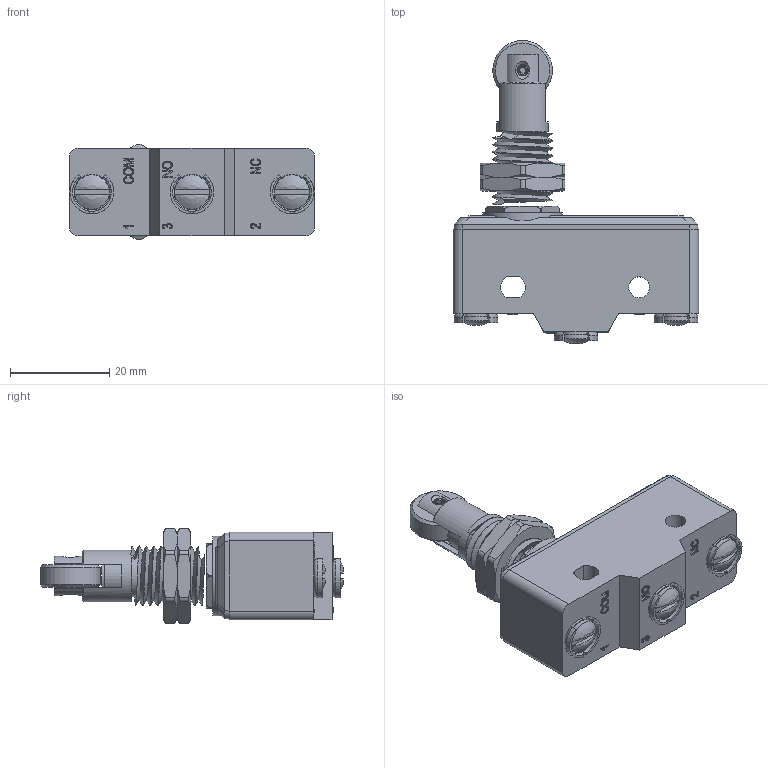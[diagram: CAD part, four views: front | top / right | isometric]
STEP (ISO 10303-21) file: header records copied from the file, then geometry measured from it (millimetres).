
FILE_DESCRIPTION((''),'2; 1');
FILE_NAME('','2026-03-27T16:24:04',(''),(''),'CST STEP Exporter V1.0','Unknown','');
FILE_SCHEMA(('CONFIG_CONTROL_DESIGN'));
Length unit declared in the file: metre
Assembly tree (15 placements, depth 2):
  (unnamed)
    (unnamed)
    (unnamed)
    (unnamed)
    (unnamed)
    (unnamed)
    (unnamed)
    (unnamed)
    (unnamed)
    (unnamed)
    (unnamed)
    (unnamed)
    (unnamed)
    (unnamed)
    (unnamed)
    (unnamed)
Bounding box: 49.4 x 61.01 x 19.27 mm (x, y, z)
Surface area: 18061.7 mm2 (no closed solid volume)
Topology: 0 solids, 19 shells, 476 faces, 1375 edges, 930 vertices
Faces by surface type: plane 300, cylinder 62, extrusion 60, cone 39, torus 6, revolution 6, bspline 3
Full cylindrical faces by diameter (mm): 1.2 x1, 2.1 x1, 2.3 x1, 3 x1, 3.1 x1, 4.2 x1, 6.9 x3, 8 x1, 8.1 x1, 8.3 x1, 10.4 x1, 12 x2, 16 x1
Entity records: 21628 total; most frequent: CARTESIAN_POINT 6091, ORIENTED_EDGE 2459, DIRECTION 1998, EDGE_CURVE 1343, VECTOR 939, VERTEX_POINT 918, LINE 879, EDGE_LOOP 555
